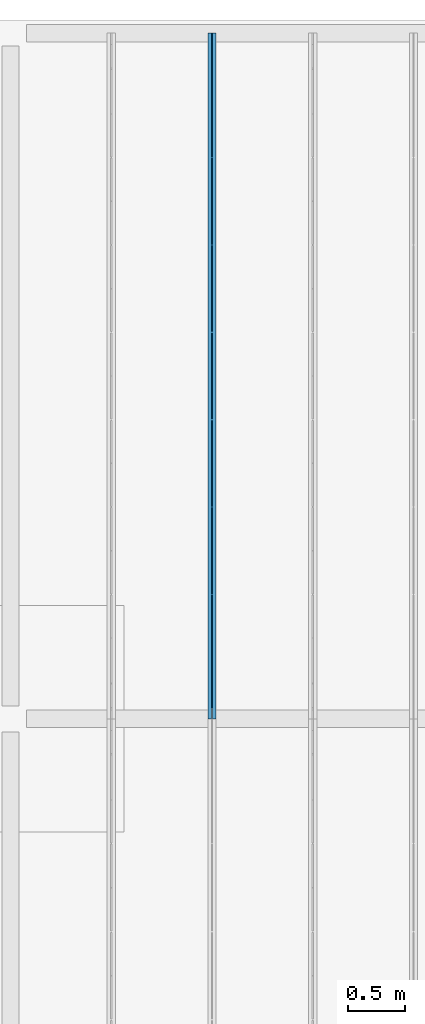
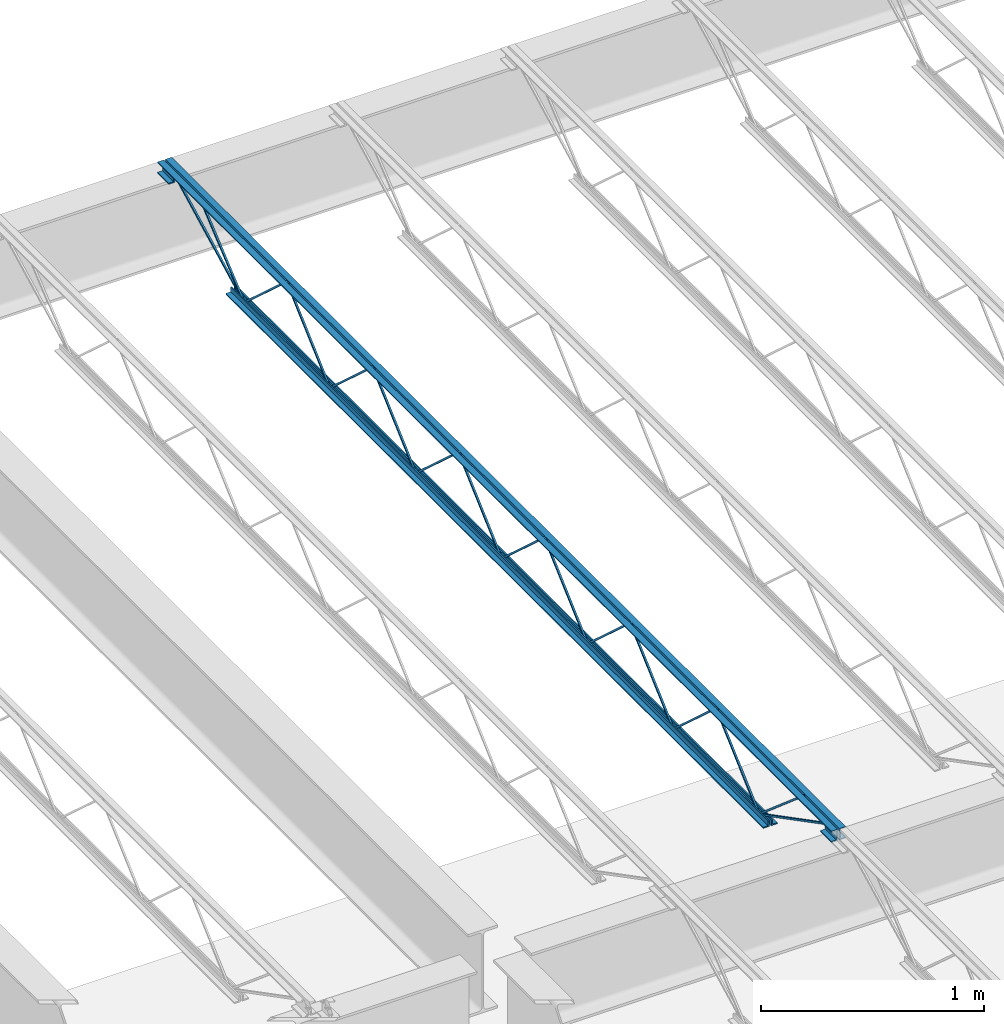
# One storey, part 50 of 75: 1 beam.
"""IFC2X3 building model written with IfcOpenShell, lengths in metres."""

from ifc_helpers import new_model, entity, si_unit, converted_unit, frame, origin, place, context, project, spatial, face_set, surface_model, element, save


model = new_model("IFC2X3")

# Units and contexts
model_context = context("Model", 3, precision=1e-09, world=origin())
plan_context = context("Plan", 3, precision=1e-09, world=origin())
ifc_project = project(units=[si_unit("LENGTHUNIT", "METRE"), si_unit("AREAUNIT", "SQUARE_METRE"), si_unit("VOLUMEUNIT", "CUBIC_METRE"), converted_unit("PLANEANGLEUNIT", "DEGREE", entity("IfcRatioMeasure", 0.01745329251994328), si_unit("PLANEANGLEUNIT", "RADIAN"), dimensions=[0, 0, 0, 0, 0, 0, 0]), si_unit("TIMEUNIT", "SECOND")], contexts=[model_context, plan_context])

# Site, building, storey
site_placement = place(None, origin())
site = spatial("IfcSite", under=ifc_project, at=site_placement, Name="Default", CompositionType="ELEMENT")
building_placement = place(site_placement, origin())
building = spatial("IfcBuilding", under=site, at=building_placement, CompositionType="ELEMENT")
storey_placement = place(building_placement, origin())
storey = spatial("IfcBuildingStorey", under=building, at=storey_placement, Name="First Floor", CompositionType="ELEMENT", Elevation=-3.531500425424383e-13)

# Beam
beam_placement = place(storey_placement, frame((-31.80924999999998, 50.09000000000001, 4.112000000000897), z_axis=(0.0, 0.0, 1.0), x_axis=(-1.0, 0.0, 0.0)))
element("IfcBeam", 1, at=beam_placement, inside=storey, Name="M_K-Series Bar Joist-Rod Web:14K1:14K1", ObjectType="M_K-Series Bar Joist-Rod Web:14K1", context=model_context, shape_type="SurfaceModel", body=[
    surface_model("IfcFaceBasedSurfaceModel", [(-0.03200000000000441, -2.254000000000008, 0.01110000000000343), (-0.04150000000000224, -2.254000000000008, 0.01110000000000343), (-0.04150000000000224, -2.254000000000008, 0.001600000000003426), (-0.03200000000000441, -2.254000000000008, 0.001600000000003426), (-0.04150000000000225, -2.252655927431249, 0.01110000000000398), (-0.03200000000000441, -2.252655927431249, 0.01110000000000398), (-0.04150000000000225, -2.248994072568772, 0.001600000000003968), (-0.04150000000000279, -1.869844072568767, 0.3449000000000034), (-0.0415000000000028, -1.86715592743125, 0.3449000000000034), (-0.04149999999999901, -1.48800592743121, 0.001600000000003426), (-0.04149999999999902, -1.483000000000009, 0.001600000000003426), (-0.04150000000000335, -1.483000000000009, 0.01110000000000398), (-0.04150000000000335, -1.484344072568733, 0.01110000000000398), (-0.04150000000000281, -1.863494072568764, 0.3544000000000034), (-0.04150000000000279, -1.873505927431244, 0.3544000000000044), (-0.03200000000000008, -2.248994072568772, 0.001600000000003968), (-0.03200000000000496, -1.869844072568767, 0.3449000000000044), (-0.03200000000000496, -1.86715592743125, 0.3449000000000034), (-0.0320000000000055, -1.48800592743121, 0.001600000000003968), (-0.03200000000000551, -1.483000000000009, 0.001600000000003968), (-0.03200000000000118, -1.483000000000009, 0.01110000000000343), (-0.03200000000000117, -1.484344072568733, 0.01110000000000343), (-0.03200000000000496, -1.863494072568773, 0.3544000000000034), (-0.03200000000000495, -1.873505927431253, 0.3544000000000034), (-0.0320000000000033, -3.025000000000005, 0.01110000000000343), (-0.04150000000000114, -3.025000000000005, 0.01110000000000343), (-0.04150000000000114, -3.025000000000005, 0.001600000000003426), (-0.0320000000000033, -3.025000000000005, 0.001600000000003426), (-0.04150000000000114, -3.023655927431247, 0.01110000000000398), (-0.0320000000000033, -3.023655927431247, 0.01110000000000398), (-0.04150000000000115, -3.01999407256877, 0.001600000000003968), (-0.04150000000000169, -2.640844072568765, 0.3449000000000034), (-0.04150000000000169, -2.638155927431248, 0.3449000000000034), (-0.04150000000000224, -2.259005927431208, 0.001600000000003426), (-0.04150000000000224, -2.254000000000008, 0.01110000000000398), (-0.04150000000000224, -2.255344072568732, 0.01110000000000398), (-0.0415000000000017, -2.634494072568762, 0.3544000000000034), (-0.04150000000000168, -2.644505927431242, 0.3544000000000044), (-0.03199999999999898, -3.01999407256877, 0.001600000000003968), (-0.03200000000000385, -2.640844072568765, 0.3449000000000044), (-0.03200000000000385, -2.638155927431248, 0.3449000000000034), (-0.03200000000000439, -2.259005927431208, 0.001600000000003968), (-0.03200000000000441, -2.254000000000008, 0.001600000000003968), (-0.0320000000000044, -2.255344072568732, 0.01110000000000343), (-0.03200000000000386, -2.634494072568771, 0.3544000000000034), (-0.03200000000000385, -2.644505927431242, 0.3544000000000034), (-0.03200000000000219, -3.796000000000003, 0.01110000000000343), (-0.04150000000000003, -3.796000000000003, 0.01110000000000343), (-0.04150000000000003, -3.796000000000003, 0.001600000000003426), (-0.03200000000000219, -3.796000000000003, 0.001600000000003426), (-0.04150000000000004, -3.794655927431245, 0.01110000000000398), (-0.03200000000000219, -3.794655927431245, 0.01110000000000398), (-0.04150000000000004, -3.790994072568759, 0.001600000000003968), (-0.04150000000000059, -3.411844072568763, 0.3449000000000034), (-0.04150000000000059, -3.409155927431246, 0.3449000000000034), (-0.04150000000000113, -3.030005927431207, 0.001600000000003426), (-0.04150000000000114, -3.025000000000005, 0.01110000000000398), (-0.04150000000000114, -3.026344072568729, 0.01110000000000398), (-0.0415000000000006, -3.40549407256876, 0.3544000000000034), (-0.04150000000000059, -3.41550592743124, 0.3544000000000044), (-0.03199999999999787, -3.790994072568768, 0.001600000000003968), (-0.03200000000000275, -3.411844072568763, 0.3449000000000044), (-0.03200000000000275, -3.409155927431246, 0.3449000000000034), (-0.03200000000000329, -3.030005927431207, 0.001600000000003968), (-0.0320000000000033, -3.025000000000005, 0.001600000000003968), (-0.0320000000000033, -3.026344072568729, 0.01110000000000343), (-0.03200000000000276, -3.40549407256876, 0.3544000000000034), (-0.03200000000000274, -3.41550592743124, 0.3544000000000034), (-0.03200000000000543, -4.567000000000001, 0.01110000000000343), (-0.04150000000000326, -4.567000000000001, 0.01110000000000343), (-0.04150000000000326, -4.567000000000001, 0.001600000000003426), (-0.03200000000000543, -4.567000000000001, 0.001600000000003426), (-0.04150000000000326, -4.565655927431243, 0.01110000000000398), (-0.03200000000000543, -4.565655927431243, 0.01110000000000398), (-0.04150000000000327, -4.561994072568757, 0.001600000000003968), (-0.04149999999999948, -4.182844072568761, 0.3449000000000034), (-0.04149999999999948, -4.180155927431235, 0.3449000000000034), (-0.04150000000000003, -3.801005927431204, 0.001600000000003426), (-0.04150000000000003, -3.795999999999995, 0.001600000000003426), (-0.04150000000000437, -3.796000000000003, 0.01110000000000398), (-0.04150000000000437, -3.797344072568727, 0.01110000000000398), (-0.04150000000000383, -4.176494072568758, 0.3544000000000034), (-0.04150000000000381, -4.186505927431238, 0.3544000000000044), (-0.0320000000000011, -4.561994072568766, 0.001600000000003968), (-0.03200000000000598, -4.182844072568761, 0.3449000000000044), (-0.03200000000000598, -4.180155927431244, 0.3449000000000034), (-0.03200000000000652, -3.801005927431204, 0.001600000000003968), (-0.03200000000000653, -3.796000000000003, 0.001600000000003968), (-0.03200000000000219, -3.795999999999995, 0.01110000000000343), (-0.03200000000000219, -3.797344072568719, 0.01110000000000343), (-0.03200000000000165, -4.176494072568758, 0.3544000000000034), (-0.03200000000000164, -4.186505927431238, 0.3544000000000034), (-0.03200000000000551, -1.483000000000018, 0.01109999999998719), (-0.04150000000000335, -1.483000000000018, 0.01109999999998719), (-0.04150000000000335, -1.483000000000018, 0.001599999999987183), (-0.03200000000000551, -1.483000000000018, 0.001599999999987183), (-0.04149999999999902, -1.48165592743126, 0.01109999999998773), (-0.03200000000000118, -1.48165592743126, 0.01109999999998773), (-0.04150000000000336, -1.477994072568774, 0.001599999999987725), (-0.0415000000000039, -1.098844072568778, 0.3448999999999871), (-0.0415000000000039, -1.096155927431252, 0.3448999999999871), (-0.04150000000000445, -0.717005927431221, 0.001599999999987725), (-0.04150000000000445, -0.7120000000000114, 0.001599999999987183), (-0.04150000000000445, -0.7120000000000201, 0.01109999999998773), (-0.04150000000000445, -0.713344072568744, 0.01109999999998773), (-0.04150000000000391, -1.092494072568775, 0.3543999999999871), (-0.04150000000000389, -1.102505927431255, 0.3543999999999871), (-0.03200000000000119, -1.477994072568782, 0.001599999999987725), (-0.03200000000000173, -1.098844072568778, 0.3448999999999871), (-0.03200000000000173, -1.09615592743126, 0.3448999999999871), (-0.03200000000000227, -0.717005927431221, 0.001599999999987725), (-0.03200000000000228, -0.7120000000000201, 0.001599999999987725), (-0.03200000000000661, -0.7120000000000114, 0.01109999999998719), (-0.03200000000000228, -0.7133440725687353, 0.01109999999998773), (-0.03200000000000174, -1.092494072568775, 0.3543999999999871), (-0.03200000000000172, -1.102505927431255, 0.3543999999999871), (-0.03200000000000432, -5.33799999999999, 0.01110000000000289), (-0.04150000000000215, -5.33799999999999, 0.01110000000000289), (-0.04150000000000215, -5.33799999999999, 0.001600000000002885), (-0.03200000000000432, -5.33799999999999, 0.001600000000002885), (-0.04150000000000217, -5.336655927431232, 0.01110000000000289), (-0.03200000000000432, -5.336655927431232, 0.01110000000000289), (-0.04150000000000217, -5.332994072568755, 0.001600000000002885), (-0.04150000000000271, -4.95384407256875, 0.3449000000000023), (-0.04150000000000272, -4.951155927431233, 0.3449000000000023), (-0.04150000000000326, -4.572005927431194, 0.001600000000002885), (-0.04150000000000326, -4.566999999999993, 0.001600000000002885), (-0.04150000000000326, -4.566999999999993, 0.01110000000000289), (-0.04150000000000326, -4.568344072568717, 0.01110000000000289), (-0.04150000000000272, -4.947494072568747, 0.3544000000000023), (-0.04150000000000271, -4.957505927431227, 0.3544000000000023), (-0.03199999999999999, -5.332994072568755, 0.001600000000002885), (-0.03200000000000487, -4.95384407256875, 0.3449000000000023), (-0.03200000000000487, -4.951155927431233, 0.3449000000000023), (-0.03200000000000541, -4.572005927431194, 0.001600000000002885), (-0.03200000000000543, -4.566999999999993, 0.001600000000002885), (-0.03200000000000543, -4.566999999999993, 0.01110000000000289), (-0.03200000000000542, -4.568344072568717, 0.01110000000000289), (-0.03200000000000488, -4.947494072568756, 0.3544000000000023), (-0.03200000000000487, -4.957505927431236, 0.3544000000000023), (-0.04150000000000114, 0.0, 0.3559999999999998), (-0.07350000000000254, 0.0, 0.3559999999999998), (-0.07350000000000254, 0.0, 0.349499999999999), (-0.04799999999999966, 0.0, 0.349499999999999), (-0.04799999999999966, 0.0, 0.3239999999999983), (-0.04150000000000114, 0.0, 0.3239999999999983), (-0.0320000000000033, 0.0, 0.3559999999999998), (-0.0320000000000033, 0.0, 0.3239999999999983), (-0.02550000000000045, 0.0, 0.3239999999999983), (-0.02550000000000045, 0.0, 0.349499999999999), (0.0, 0.0, 0.349499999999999), (0.0, 0.0, 0.3559999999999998), (-0.04150000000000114, -6.049999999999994, 0.3559999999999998), (-0.07350000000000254, -6.049999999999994, 0.3559999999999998), (-0.07350000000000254, -6.049999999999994, 0.349499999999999), (-0.04799999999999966, -6.049999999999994, 0.349499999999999), (-0.04799999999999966, -6.049999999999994, 0.3239999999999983), (-0.04150000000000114, -6.049999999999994, 0.3239999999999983), (-0.0320000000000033, -6.049999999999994, 0.3559999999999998), (-0.0320000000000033, -6.049999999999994, 0.3239999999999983), (-0.02550000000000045, -6.049999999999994, 0.3239999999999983), (-0.02550000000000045, -6.049999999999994, 0.349499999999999), (0.0, -6.049999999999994, 0.349499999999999), (0.0, -6.049999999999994, 0.3559999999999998), (-0.03200000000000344, -5.950000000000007, 0.2924999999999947), (0.0, -5.950000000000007, 0.2924999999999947), (0.0, -5.950000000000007, 0.2989999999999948), (-0.02550000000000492, -5.950000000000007, 0.2989999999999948), (-0.02550000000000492, -5.950000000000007, 0.3239999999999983), (-0.03200000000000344, -5.950000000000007, 0.3239999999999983), (-0.07350000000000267, -5.950000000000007, 0.2924999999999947), (-0.04150000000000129, -5.950000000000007, 0.2924999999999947), (-0.04150000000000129, -5.950000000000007, 0.3239999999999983), (-0.04800000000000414, -5.950000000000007, 0.3239999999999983), (-0.04800000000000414, -5.950000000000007, 0.2989999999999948), (-0.07350000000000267, -5.950000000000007, 0.2989999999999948), (-0.0320000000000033, -6.049999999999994, 0.2924999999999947), (0.0, -6.049999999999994, 0.2924999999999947), (0.0, -6.049999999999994, 0.2989999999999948), (-0.02550000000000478, -6.049999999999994, 0.2989999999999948), (-0.02550000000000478, -6.049999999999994, 0.3239999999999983), (-0.07350000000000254, -6.049999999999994, 0.2924999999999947), (-0.04150000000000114, -6.049999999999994, 0.2924999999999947), (-0.048000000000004, -6.049999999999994, 0.3239999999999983), (-0.048000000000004, -6.049999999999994, 0.2989999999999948), (-0.07350000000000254, -6.049999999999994, 0.2989999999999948), (-0.04150000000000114, 0.0, 0.2924999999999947), (-0.048000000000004, 0.0, 0.3239999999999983), (-0.048000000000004, 0.0, 0.2989999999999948), (-0.07350000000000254, 0.0, 0.2989999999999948), (-0.07350000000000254, 0.0, 0.2924999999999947), (-0.0320000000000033, 0.0, 0.2924999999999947), (0.0, 0.0, 0.2924999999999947), (0.0, 0.0, 0.2989999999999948), (-0.02550000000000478, 0.0, 0.2989999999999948), (-0.02550000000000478, 0.0, 0.3239999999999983), (-0.04150000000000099, -0.0999999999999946, 0.2924999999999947), (-0.04150000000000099, -0.0999999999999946, 0.3239999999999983), (-0.04800000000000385, -0.0999999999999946, 0.3239999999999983), (-0.04800000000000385, -0.0999999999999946, 0.2989999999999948), (-0.07350000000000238, -0.0999999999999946, 0.2989999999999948), (-0.07350000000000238, -0.0999999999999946, 0.2924999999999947), (-0.03200000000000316, -0.0999999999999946, 0.2924999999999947), (0.0, -0.0999999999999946, 0.2924999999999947), (0.0, -0.0999999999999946, 0.2989999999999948), (-0.02550000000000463, -0.0999999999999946, 0.2989999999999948), (-0.02550000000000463, -0.0999999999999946, 0.3239999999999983), (-0.03200000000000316, -0.0999999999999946, 0.3239999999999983), (-0.04150000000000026, -0.6119999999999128, 0.0), (-0.04150000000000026, -0.6119999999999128, 0.03199999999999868), (-0.04799999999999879, -0.6119999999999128, 0.03199999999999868), (-0.04799999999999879, -0.6119999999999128, 0.006499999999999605), (-0.07350000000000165, -0.6119999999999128, 0.006499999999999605), (-0.07350000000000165, -0.6119999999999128, 0.0), (-0.03200000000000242, -0.6119999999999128, 0.0), (0.0, -0.6119999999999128, 0.0), (0.0, -0.6119999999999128, 0.006499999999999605), (-0.02549999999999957, -0.6119999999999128, 0.006499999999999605), (-0.02549999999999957, -0.6119999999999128, 0.03199999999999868), (-0.03200000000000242, -0.6119999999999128, 0.03199999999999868), (-0.04150000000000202, -5.437999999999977, 0.0), (-0.04150000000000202, -5.437999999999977, 0.03199999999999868), (-0.04800000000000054, -5.437999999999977, 0.03199999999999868), (-0.04800000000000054, -5.437999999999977, 0.006499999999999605), (-0.07350000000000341, -5.437999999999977, 0.006499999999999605), (-0.07350000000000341, -5.437999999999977, 0.0), (-0.03200000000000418, -5.437999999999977, 0.0), (0.0, -5.437999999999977, 0.0), (0.0, -5.437999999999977, 0.006499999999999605), (-0.02550000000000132, -5.437999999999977, 0.006499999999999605), (-0.02550000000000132, -5.437999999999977, 0.03199999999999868), (-0.03200000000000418, -5.437999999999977, 0.03199999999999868), (-0.03200000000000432, -5.335811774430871, 0.01056594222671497), (-0.04150000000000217, -5.335811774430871, 0.01056594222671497), (-0.04150000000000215, -5.34018822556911, 0.002134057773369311), (-0.03200000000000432, -5.34018822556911, 0.002134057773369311), (-0.03200000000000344, -5.948840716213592, 0.3287499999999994), (-0.0320000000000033, -6.049999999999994, 0.3287499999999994), (-0.0320000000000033, -6.049999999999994, 0.3192499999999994), (-0.03200000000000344, -5.951159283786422, 0.3192499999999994), (-0.04150000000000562, -5.951159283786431, 0.3192499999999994), (-0.04150000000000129, -5.948840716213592, 0.3287499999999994), (-0.04150000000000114, -6.049999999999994, 0.3287499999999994), (-0.04150000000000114, -6.049999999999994, 0.3192499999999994), (-0.03200000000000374, -5.743457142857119, 0.341700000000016), (-0.04150000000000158, -5.743457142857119, 0.341700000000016), (-0.04150000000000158, -5.743457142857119, 0.332200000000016), (-0.03200000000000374, -5.743457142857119, 0.332200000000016), (-0.0415000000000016, -5.729024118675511, 0.341700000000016), (-0.03200000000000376, -5.729024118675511, 0.341700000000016), (-0.0415000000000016, -5.732490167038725, 0.332200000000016), (-0.04150000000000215, -5.341058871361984, 0.002716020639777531), (-0.04150000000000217, -5.334941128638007, 0.009983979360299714), (-0.03199999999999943, -5.732490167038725, 0.332200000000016), (-0.03200000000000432, -5.341058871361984, 0.002716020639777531), (-0.03200000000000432, -5.334941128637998, 0.009983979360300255), (-0.03200000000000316, -0.09781177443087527, 0.3197840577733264), (-0.03200000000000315, -0.1021882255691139, 0.3282159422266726), (-0.04150000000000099, -0.1021882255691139, 0.3282159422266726), (-0.04150000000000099, -0.09781177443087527, 0.3197840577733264), (-0.03200000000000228, -0.7098117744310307, 0.002134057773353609), (-0.03200000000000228, -0.7141882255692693, 0.01056594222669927), (-0.04150000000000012, -0.7141882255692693, 0.01056594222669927), (-0.04150000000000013, -0.7098117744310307, 0.002134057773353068), (-0.03200000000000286, -0.3088922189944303, 0.3460454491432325), (-0.03200000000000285, -0.3150792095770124, 0.3532545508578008), (-0.04150000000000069, -0.3150792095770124, 0.3532545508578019), (-0.0415000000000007, -0.3088922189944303, 0.3460454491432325), (-0.03200000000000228, -0.7089065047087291, 0.002745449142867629), (-0.03200000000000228, -0.715093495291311, 0.009954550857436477), (-0.04150000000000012, -0.715093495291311, 0.009954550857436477), (-0.04150000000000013, -0.7089065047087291, 0.002745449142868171)], [face_set([[[0, 1, 2, 3]], [[1, 4, 5, 0]], [[2, 6, 7, 8, 9, 10, 11, 12, 13, 14, 4, 1]], [[3, 2, 6, 15]], [[0, 3, 15, 16, 17, 18, 19, 20, 21, 22, 23, 5]], [[4, 5, 23, 14]], [[15, 16, 7, 6]], [[14, 13, 22, 23]], [[16, 7, 8, 17]], [[13, 12, 21, 22]], [[17, 8, 9, 18]], [[20, 11, 10, 19]], [[12, 11, 20, 21]], [[18, 9, 10, 19]]]), face_set([[[24, 25, 26, 27]], [[25, 28, 29, 24]], [[26, 30, 31, 32, 33, 2, 34, 35, 36, 37, 28, 25]], [[27, 26, 30, 38]], [[24, 27, 38, 39, 40, 41, 42, 0, 43, 44, 45, 29]], [[28, 29, 45, 37]], [[38, 39, 31, 30]], [[37, 36, 44, 45]], [[39, 31, 32, 40]], [[36, 35, 43, 44]], [[40, 32, 33, 41]], [[0, 34, 2, 42]], [[35, 34, 0, 43]], [[41, 33, 2, 42]]]), face_set([[[46, 47, 48, 49]], [[47, 50, 51, 46]], [[48, 52, 53, 54, 55, 26, 56, 57, 58, 59, 50, 47]], [[49, 48, 52, 60]], [[46, 49, 60, 61, 62, 63, 64, 24, 65, 66, 67, 51]], [[50, 51, 67, 59]], [[60, 61, 53, 52]], [[59, 58, 66, 67]], [[61, 53, 54, 62]], [[58, 57, 65, 66]], [[62, 54, 55, 63]], [[24, 56, 26, 64]], [[57, 56, 24, 65]], [[63, 55, 26, 64]]]), face_set([[[68, 69, 70, 71]], [[69, 72, 73, 68]], [[70, 74, 75, 76, 77, 78, 79, 80, 81, 82, 72, 69]], [[71, 70, 74, 83]], [[68, 71, 83, 84, 85, 86, 87, 88, 89, 90, 91, 73]], [[72, 73, 91, 82]], [[83, 84, 75, 74]], [[82, 81, 90, 91]], [[84, 75, 76, 85]], [[81, 80, 89, 90]], [[85, 76, 77, 86]], [[88, 79, 78, 87]], [[80, 79, 88, 89]], [[86, 77, 78, 87]]]), face_set([[[92, 93, 94, 95]], [[93, 96, 97, 92]], [[94, 98, 99, 100, 101, 102, 103, 104, 105, 106, 96, 93]], [[95, 94, 98, 107]], [[92, 95, 107, 108, 109, 110, 111, 112, 113, 114, 115, 97]], [[96, 97, 115, 106]], [[107, 108, 99, 98]], [[106, 105, 114, 115]], [[108, 99, 100, 109]], [[105, 104, 113, 114]], [[109, 100, 101, 110]], [[112, 103, 102, 111]], [[104, 103, 112, 113]], [[110, 101, 102, 111]]]), face_set([[[116, 117, 118, 119]], [[117, 120, 121, 116]], [[118, 122, 123, 124, 125, 126, 127, 128, 129, 130, 120, 117]], [[119, 118, 122, 131]], [[116, 119, 131, 132, 133, 134, 135, 136, 137, 138, 139, 121]], [[120, 121, 139, 130]], [[131, 132, 123, 122]], [[130, 129, 138, 139]], [[132, 123, 124, 133]], [[129, 128, 137, 138]], [[133, 124, 125, 134]], [[136, 127, 126, 135]], [[128, 127, 136, 137]], [[134, 125, 126, 135]]]), face_set([[[140, 141, 142, 143, 144, 145]], [[146, 147, 148, 149, 150, 151]], [[152, 153, 154, 155, 156, 157]], [[158, 159, 160, 161, 162, 163]], [[145, 140, 152, 157]], [[144, 145, 157, 156]], [[143, 155, 156, 144]], [[142, 143, 155, 154]], [[141, 153, 154, 142]], [[140, 152, 153, 141]], [[151, 163, 158, 146]], [[150, 151, 163, 162]], [[149, 150, 162, 161]], [[148, 149, 161, 160]], [[147, 148, 160, 159]], [[146, 158, 159, 147]]]), face_set([[[164, 165, 166, 167, 168, 169]], [[170, 171, 172, 173, 174, 175]], [[176, 177, 178, 179, 180, 159]], [[181, 182, 157, 183, 184, 185]], [[169, 159, 176, 164]], [[168, 180, 159, 169]], [[167, 168, 180, 179]], [[166, 178, 179, 167]], [[165, 166, 178, 177]], [[164, 165, 177, 176]], [[175, 185, 181, 170]], [[174, 184, 185, 175]], [[173, 183, 184, 174]], [[172, 157, 183, 173]], [[171, 172, 157, 182]], [[170, 171, 182, 181]]]), face_set([[[186, 145, 187, 188, 189, 190]], [[191, 192, 193, 194, 195, 147]], [[196, 197, 198, 199, 200, 201]], [[202, 203, 204, 205, 206, 207]], [[190, 186, 196, 201]], [[189, 200, 201, 190]], [[188, 199, 200, 189]], [[187, 198, 199, 188]], [[145, 197, 198, 187]], [[186, 145, 197, 196]], [[147, 207, 202, 191]], [[195, 206, 207, 147]], [[194, 195, 206, 205]], [[193, 204, 205, 194]], [[192, 193, 204, 203]], [[191, 192, 203, 202]]]), face_set([[[208, 209, 210, 211, 212, 213]], [[214, 215, 216, 217, 218, 219]], [[220, 221, 222, 223, 224, 225]], [[226, 227, 228, 229, 230, 231]], [[213, 208, 220, 225]], [[212, 224, 225, 213]], [[211, 223, 224, 212]], [[210, 222, 223, 211]], [[209, 221, 222, 210]], [[208, 209, 221, 220]], [[219, 231, 226, 214]], [[218, 230, 231, 219]], [[217, 218, 230, 229]], [[216, 228, 229, 217]], [[215, 216, 228, 227]], [[214, 215, 227, 226]]]), face_set([[[232, 233, 234, 235]], [[235, 232, 236, 237, 238, 239]], [[234, 235, 239, 240]], [[233, 241, 242, 243, 240, 234]], [[232, 236, 241, 233]], [[237, 242, 243, 238]], [[240, 239, 238, 243]], [[236, 237, 242, 241]]]), face_set([[[244, 245, 246, 247]], [[245, 248, 249, 244]], [[246, 250, 251, 252, 248, 245]], [[247, 246, 250, 253]], [[244, 247, 253, 254, 255, 249]], [[255, 252, 251, 254]], [[248, 252, 255, 249]], [[253, 250, 251, 254]]]), face_set([[[256, 257, 258, 259]], [[260, 261, 262, 263]], [[259, 263, 260, 256]], [[258, 262, 263, 259]], [[257, 258, 262, 261]], [[256, 257, 261, 260]]]), face_set([[[264, 265, 266, 267]], [[268, 269, 270, 271]], [[267, 271, 268, 264]], [[266, 270, 271, 267]], [[265, 266, 270, 269]], [[264, 265, 269, 268]]])]),
])

save(model, "model.ifc")
